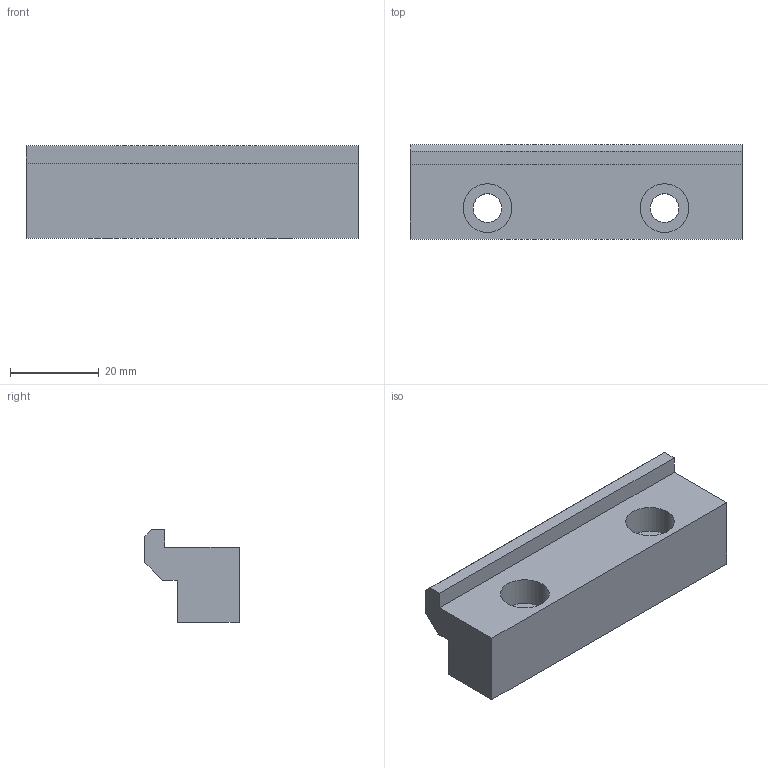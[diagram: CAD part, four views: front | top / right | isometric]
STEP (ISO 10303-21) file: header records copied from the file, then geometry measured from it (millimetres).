
FILE_DESCRIPTION((''),'2;1');
FILE_NAME('MB-80','2017-03-31T',('Owner'),(''),'PRO/ENGINEER BY PARAMETRIC TECHNOLOGY CORPORATION, 2009440','PRO/ENGINEER BY PARAMETRIC TECHNOLOGY CORPORATION, 2009440','');
FILE_SCHEMA(('CONFIG_CONTROL_DESIGN'));
Length unit declared in the file: millimetre
Products named in the file (1): MB-80
Bounding box: 75 x 21.3 x 21 mm (x, y, z)
Volume: 20689.6 mm3; surface area: 7452 mm2
Topology: 1 solids, 1 shells, 22 faces, 54 edges, 36 vertices
Faces by surface type: plane 14, cylinder 8
Entity records: 700 total; most frequent: DIRECTION 114, CARTESIAN_POINT 112, ORIENTED_EDGE 108, EDGE_CURVE 54, VECTOR 38, LINE 38, AXIS2_PLACEMENT_3D 38, VERTEX_POINT 36
